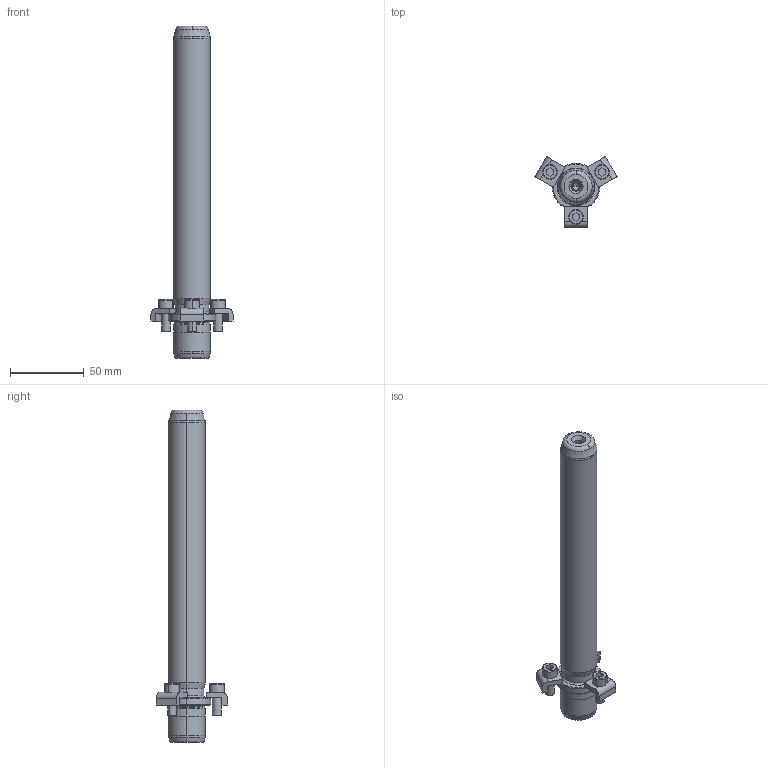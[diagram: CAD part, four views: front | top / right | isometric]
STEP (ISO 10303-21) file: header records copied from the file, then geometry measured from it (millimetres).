
FILE_DESCRIPTION((''),'2;1');
FILE_NAME('P21_025_200.stp','2008-12-23T09:51:36',(''),(''),'Mechanical Desktop 2009','Mechanical Desktop 2009',', , ');
FILE_SCHEMA(('CONFIG_CONTROL_DESIGN'));
Length unit declared in the file: millimetre
Products named in the file (2): Product; blmdl1
Assembly tree (1 placements, depth 2):
  Product
    blmdl1
Bounding box: 55.58 x 48.13 x 225 mm (x, y, z)
Volume: 114844.2 mm3; surface area: 24303.9 mm2
Topology: 7 solids, 7 shells, 163 faces, 417 edges, 269 vertices
Faces by surface type: plane 59, cylinder 44, cone 32, torus 14, bspline 14
Entity records: 5679 total; most frequent: CARTESIAN_POINT 1511, DIRECTION 914, ORIENTED_EDGE 826, EDGE_CURVE 413, AXIS2_PLACEMENT_3D 362, VERTEX_POINT 269, CIRCLE 211, VECTOR 190
